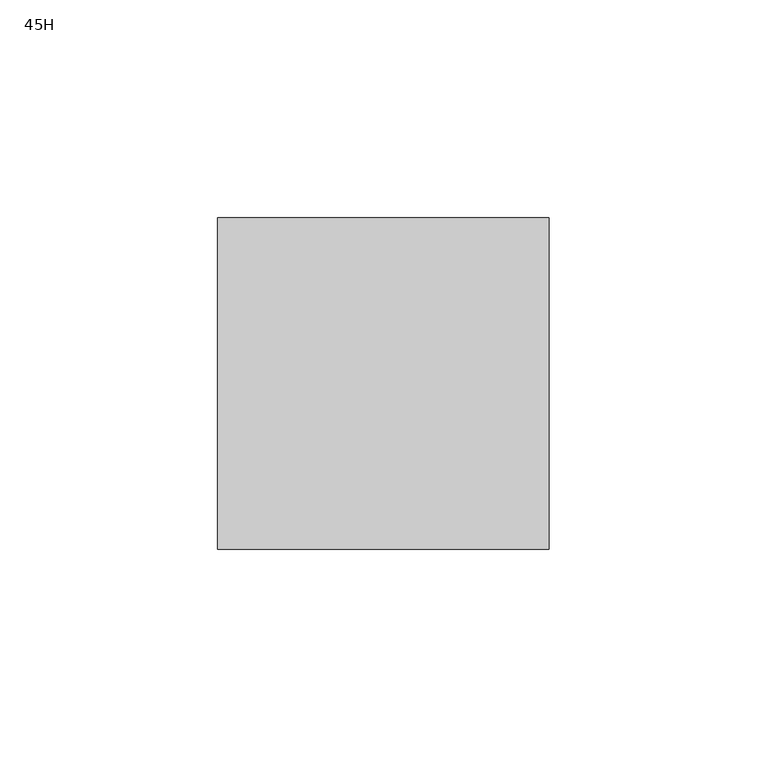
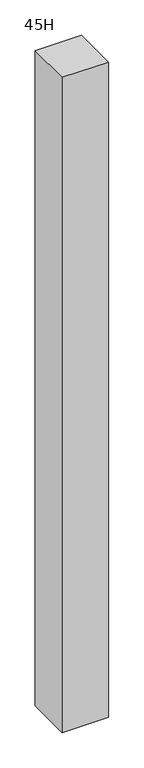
"""IFC4 building model written with IfcOpenShell, lengths in millimetres: furniture geometry, Steelcase - Montage - Junction - I - Same-Height : 45H."""

from ifc_helpers import new_model, si_unit, frame, origin, place, context, project, spatial, polyline, outline, extrude, source, transform, mapped, element, save


def furniture_45h_ac7019bf(model_context):
    return source(origin(), model_context, "Body", "SweptSolid", [
        extrude(outline(polyline([(533.4, 38.1000015), (533.4, -38.1000015), (457.2, -38.1000015), (457.2, 38.1000015), (533.4, 38.1000015)])), frame((0.0, 0.0, 3.9624), z_axis=(0.0, 0.0, 1.0), x_axis=(1.0, 0.0, 0.0)), (0.0, 0.0, 1.0), 1132.6876),
    ])


if __name__ == "__main__":
    model = new_model("IFC4")
    model_context = context("Model", 3, world=origin())
    ifc_project = project(units=[si_unit("LENGTHUNIT", "METRE", prefix="MILLI")], contexts=[model_context])
    site = spatial("IfcSite", under=ifc_project)
    building = spatial("IfcBuilding", under=site)
    placement = place(None, origin())
    furniture_45h_shape = furniture_45h_ac7019bf(model_context)
    element("IfcFurniture", 1, ObjectType="Steelcase - Montage - Junction - I - Same-Height : 45H", at=placement, inside=building, context=model_context, shape_type="MappedRepresentation", body=[
        mapped(furniture_45h_shape, transform((0.0, 0.0, 0.0), x_axis=(1.0, 0.0, 0.0), y_axis=(0.0, 1.0, 0.0), z_axis=(0.0, 0.0, 1.0))),
    ])
    save(model, "model.ifc")
